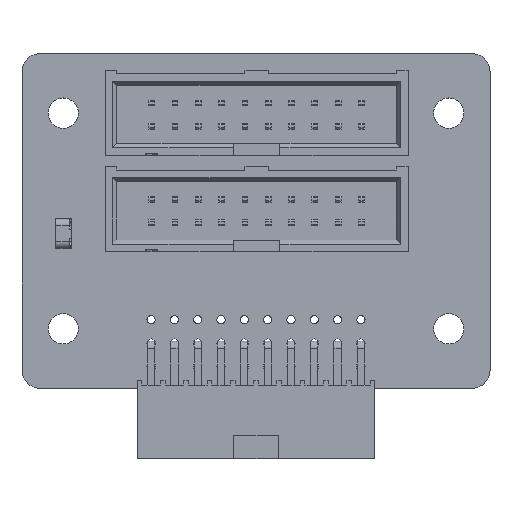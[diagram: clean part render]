
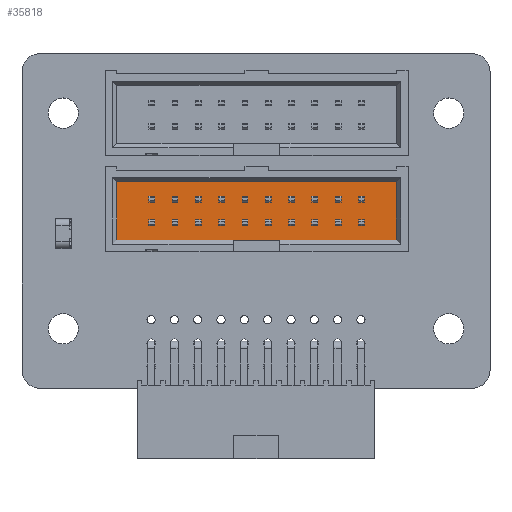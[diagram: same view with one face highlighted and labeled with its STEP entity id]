
A CAD part, top view. The second image highlights one B-rep face of the part: STEP entity #35818.
In plain terms, the highlighted planar face has unit normal (0, 0, 1) as drawn and (0, 1, 0) by its records, which use the part's own axes.
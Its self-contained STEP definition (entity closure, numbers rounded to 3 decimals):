
#393 = DIRECTION ( 'NONE',  ( 0., 1., 0. ) ) ;
#1079 = ORIENTED_EDGE ( 'NONE', *, *, #36762, .T. ) ;
#1480 = VECTOR ( 'NONE', #12383, 1000. ) ;
#1588 = CARTESIAN_POINT ( 'NONE',  ( -15.24, 2.54, -1.651 ) ) ;
#1673 = ORIENTED_EDGE ( 'NONE', *, *, #31571, .T. ) ;
#1883 = LINE ( 'NONE', #13647, #25121 ) ;
#2140 = CARTESIAN_POINT ( 'NONE',  ( -15.24, 2.54, -3.175 ) ) ;
#3504 = LINE ( 'NONE', #33274, #1480 ) ;
#3577 = ORIENTED_EDGE ( 'NONE', *, *, #17045, .T. ) ;
#3714 = DIRECTION ( 'NONE',  ( 0., 0., -1. ) ) ;
#4038 = CARTESIAN_POINT ( 'NONE',  ( 2.54, 2.54, 3.175 ) ) ;
#4066 = LINE ( 'NONE', #16020, #26994 ) ;
#4204 = DIRECTION ( 'NONE',  ( 1., 0., 0. ) ) ;
#5018 = EDGE_CURVE ( 'NONE', #24316, #36279, #29967, .T. ) ;
#5725 = VECTOR ( 'NONE', #17346, 1000. ) ;
#5861 = ORIENTED_EDGE ( 'NONE', *, *, #7138, .T. ) ;
#5981 = PLANE ( 'NONE',  #24123 ) ;
#6424 = EDGE_CURVE ( 'NONE', #34479, #30025, #28972, .T. ) ;
#6902 = CARTESIAN_POINT ( 'NONE',  ( 15.24, 2.54, 3.175 ) ) ;
#7138 = EDGE_CURVE ( 'NONE', #30025, #27660, #3504, .T. ) ;
#8793 = VERTEX_POINT ( 'NONE', #4038 ) ;
#9358 = LINE ( 'NONE', #33154, #29744 ) ;
#9845 = DIRECTION ( 'NONE',  ( 0., 0., -1. ) ) ;
#10279 = ORIENTED_EDGE ( 'NONE', *, *, #24407, .T. ) ;
#11115 = EDGE_LOOP ( 'NONE', ( #3577, #1079, #23790, #5861, #28322, #10279, #1673, #18845, #14588, #29863 ) ) ;
#11485 = CARTESIAN_POINT ( 'NONE',  ( 15.24, 2.54, -3.175 ) ) ;
#12383 = DIRECTION ( 'NONE',  ( 0., 0., 1. ) ) ;
#12557 = CARTESIAN_POINT ( 'NONE',  ( 15.24, 2.54, -3.175 ) ) ;
#12745 = CARTESIAN_POINT ( 'NONE',  ( 15.24, 2.54, 3.175 ) ) ;
#12844 = VERTEX_POINT ( 'NONE', #27977 ) ;
#13647 = CARTESIAN_POINT ( 'NONE',  ( -15.24, 2.54, 3.175 ) ) ;
#14481 = DIRECTION ( 'NONE',  ( 0., 0., 1. ) ) ;
#14588 = ORIENTED_EDGE ( 'NONE', *, *, #26448, .T. ) ;
#15271 = LINE ( 'NONE', #29582, #32534 ) ;
#16020 = CARTESIAN_POINT ( 'NONE',  ( -15.24, 2.54, 3.175 ) ) ;
#16529 = VECTOR ( 'NONE', #9845, 1000. ) ;
#17045 = EDGE_CURVE ( 'NONE', #23911, #27047, #26556, .T. ) ;
#17248 = VECTOR ( 'NONE', #3714, 1000. ) ;
#17346 = DIRECTION ( 'NONE',  ( 0., 0., 1. ) ) ;
#18372 = LINE ( 'NONE', #30181, #17248 ) ;
#18794 = CARTESIAN_POINT ( 'NONE',  ( -15.24, 2.54, 1.651 ) ) ;
#18845 = ORIENTED_EDGE ( 'NONE', *, *, #5018, .T. ) ;
#19419 = VECTOR ( 'NONE', #20554, 1000. ) ;
#20554 = DIRECTION ( 'NONE',  ( -1., 0., 0. ) ) ;
#20906 = CARTESIAN_POINT ( 'NONE',  ( -15.24, 2.54, -3.175 ) ) ;
#22181 = LINE ( 'NONE', #12745, #16529 ) ;
#23377 = CARTESIAN_POINT ( 'NONE',  ( 15.24, 2.54, 3.175 ) ) ;
#23790 = ORIENTED_EDGE ( 'NONE', *, *, #6424, .T. ) ;
#23911 = VERTEX_POINT ( 'NONE', #12557 ) ;
#24123 = AXIS2_PLACEMENT_3D ( 'NONE', #35173, #393, #14481 ) ;
#24316 = VERTEX_POINT ( 'NONE', #6902 ) ;
#24407 = EDGE_CURVE ( 'NONE', #31497, #8793, #1883, .T. ) ;
#25121 = VECTOR ( 'NONE', #4204, 1000. ) ;
#25157 = EDGE_CURVE ( 'NONE', #27660, #31497, #4066, .T. ) ;
#26414 = CARTESIAN_POINT ( 'NONE',  ( 15.24, 2.54, 1.651 ) ) ;
#26448 = EDGE_CURVE ( 'NONE', #36279, #12844, #22181, .T. ) ;
#26556 = LINE ( 'NONE', #11485, #19419 ) ;
#26867 = DIRECTION ( 'NONE',  ( 0., 0., -1. ) ) ;
#26994 = VECTOR ( 'NONE', #27633, 1000. ) ;
#27047 = VERTEX_POINT ( 'NONE', #20906 ) ;
#27633 = DIRECTION ( 'NONE',  ( 1., 0., 0. ) ) ;
#27660 = VERTEX_POINT ( 'NONE', #31289 ) ;
#27977 = CARTESIAN_POINT ( 'NONE',  ( 15.24, 2.54, -1.651 ) ) ;
#28322 = ORIENTED_EDGE ( 'NONE', *, *, #25157, .T. ) ;
#28972 = LINE ( 'NONE', #2140, #5725 ) ;
#29582 = CARTESIAN_POINT ( 'NONE',  ( -15.24, 2.54, 3.175 ) ) ;
#29744 = VECTOR ( 'NONE', #33534, 1000. ) ;
#29863 = ORIENTED_EDGE ( 'NONE', *, *, #34367, .T. ) ;
#29967 = LINE ( 'NONE', #23377, #37784 ) ;
#30025 = VERTEX_POINT ( 'NONE', #18794 ) ;
#30181 = CARTESIAN_POINT ( 'NONE',  ( 15.24, 2.54, 3.175 ) ) ;
#31289 = CARTESIAN_POINT ( 'NONE',  ( -15.24, 2.54, 3.175 ) ) ;
#31497 = VERTEX_POINT ( 'NONE', #31547 ) ;
#31547 = CARTESIAN_POINT ( 'NONE',  ( -2.54, 2.54, 3.175 ) ) ;
#31571 = EDGE_CURVE ( 'NONE', #8793, #24316, #15271, .T. ) ;
#32474 = FACE_OUTER_BOUND ( 'NONE', #11115, .T. ) ;
#32534 = VECTOR ( 'NONE', #35590, 1000. ) ;
#33154 = CARTESIAN_POINT ( 'NONE',  ( -15.24, 2.54, -3.175 ) ) ;
#33274 = CARTESIAN_POINT ( 'NONE',  ( -15.24, 2.54, -3.175 ) ) ;
#33534 = DIRECTION ( 'NONE',  ( 0., 0., 1. ) ) ;
#34367 = EDGE_CURVE ( 'NONE', #12844, #23911, #18372, .T. ) ;
#34479 = VERTEX_POINT ( 'NONE', #1588 ) ;
#35173 = CARTESIAN_POINT ( 'NONE',  ( 0., 2.54, 0. ) ) ;
#35590 = DIRECTION ( 'NONE',  ( 1., 0., 0. ) ) ;
#35818 = ADVANCED_FACE ( 'NONE', ( #32474 ), #5981, .T. ) ;
#36279 = VERTEX_POINT ( 'NONE', #26414 ) ;
#36762 = EDGE_CURVE ( 'NONE', #27047, #34479, #9358, .T. ) ;
#37784 = VECTOR ( 'NONE', #26867, 1000. ) ;
